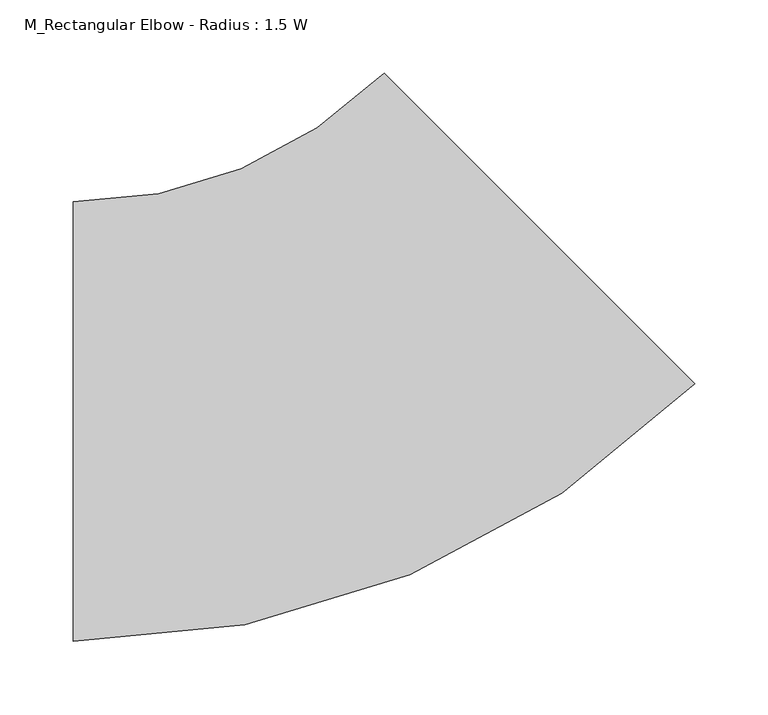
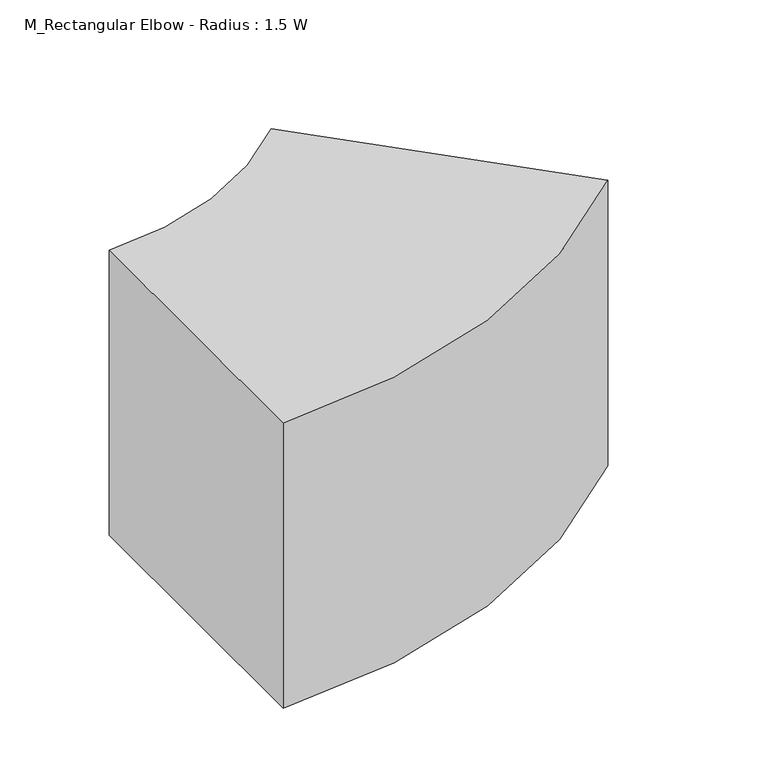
"""IFC4 building model written with IfcOpenShell, lengths in millimetres: duct fitting geometry, M_Rectangular Elbow - Radius : 1.5 W."""

from ifc_helpers import new_model, si_unit, point, frame, frame_2d, origin, place, context, project, spatial, polyline, circle_curve, trimmed, segment, composite_curve, outline, extrude, source, transform, mapped, element, save


def m_rectangular_elbow_radius_1_5_w_5bed5c13(model_context):
    return source(origin(), model_context, "Body", "SweptSolid", [
        extrude(outline(composite_curve([segment(trimmed(circle_curve(frame_2d((-186.3961031, 450.0)), 600.0), [point((237.8679656, 25.7359313))], [point((-186.3961031, -150.0))], False, "CARTESIAN"), True, "CONTINUOUS"), segment(polyline([(-186.3961031, -150.0), (-186.3961031, 150.0)]), True, "CONTINUOUS"), segment(trimmed(circle_curve(frame_2d((-186.3961031, 450.0)), 300.0), [point((-186.3961031, 150.0))], [point((25.7359313, 237.8679656))], True, "CARTESIAN"), True, "CONTINUOUS"), segment(polyline([(25.7359313, 237.8679656), (237.8679656, 25.7359313)]), True, "CONTINUOUS")], self_intersect=False)), frame((0.0, 0.0, -150.0), z_axis=(0.0, 0.0, 1.0), x_axis=(1.0, 0.0, 0.0)), (0.0, 0.0, 1.0), 300.0),
        extrude(outline(composite_curve([segment(trimmed(circle_curve(frame_2d((-186.3961031, 450.0)), 600.0), [point((237.8679656, 25.7359313))], [point((-186.3961031, -150.0))], False, "CARTESIAN"), True, "CONTINUOUS"), segment(polyline([(-186.3961031, -150.0), (-186.3961031, 150.0)]), True, "CONTINUOUS"), segment(trimmed(circle_curve(frame_2d((-186.3961031, 450.0)), 300.0), [point((-186.3961031, 150.0))], [point((25.7359313, 237.8679656))], True, "CARTESIAN"), True, "CONTINUOUS"), segment(polyline([(25.7359313, 237.8679656), (237.8679656, 25.7359313)]), True, "CONTINUOUS")], self_intersect=False)), frame((0.0, 0.0, -150.0), z_axis=(0.0, 0.0, 1.0), x_axis=(1.0, 0.0, 0.0)), (0.0, 0.0, 1.0), 300.0),
        extrude(outline(composite_curve([segment(trimmed(circle_curve(frame_2d((-186.3961031, 450.0)), 600.0), [point((237.8679656, 25.7359313))], [point((-186.3961031, -150.0))], False, "CARTESIAN"), True, "CONTINUOUS"), segment(polyline([(-186.3961031, -150.0), (-186.3961031, 150.0)]), True, "CONTINUOUS"), segment(trimmed(circle_curve(frame_2d((-186.3961031, 450.0)), 300.0), [point((-186.3961031, 150.0))], [point((25.7359313, 237.8679656))], True, "CARTESIAN"), True, "CONTINUOUS"), segment(polyline([(25.7359313, 237.8679656), (237.8679656, 25.7359313)]), True, "CONTINUOUS")], self_intersect=False)), frame((0.0, 0.0, -150.0), z_axis=(0.0, 0.0, 1.0), x_axis=(1.0, 0.0, 0.0)), (0.0, 0.0, 1.0), 300.0),
    ])


if __name__ == "__main__":
    model = new_model("IFC4")
    model_context = context("Model", 3, world=origin())
    ifc_project = project(units=[si_unit("LENGTHUNIT", "METRE", prefix="MILLI")], contexts=[model_context])
    site = spatial("IfcSite", under=ifc_project)
    building = spatial("IfcBuilding", under=site)
    placement = place(None, origin())
    m_rectangular_elbow_radius_1_5_w_shape = m_rectangular_elbow_radius_1_5_w_5bed5c13(model_context)
    element("IfcDuctFitting", 1, ObjectType="M_Rectangular Elbow - Radius : 1.5 W", at=placement, inside=building, context=model_context, shape_type="MappedRepresentation", body=[
        mapped(m_rectangular_elbow_radius_1_5_w_shape, transform((0.0, 0.0, 0.0), x_axis=(1.0, 0.0, 0.0), y_axis=(0.0, 1.0, 0.0), z_axis=(0.0, 0.0, 1.0))),
    ])
    save(model, "model.ifc")
